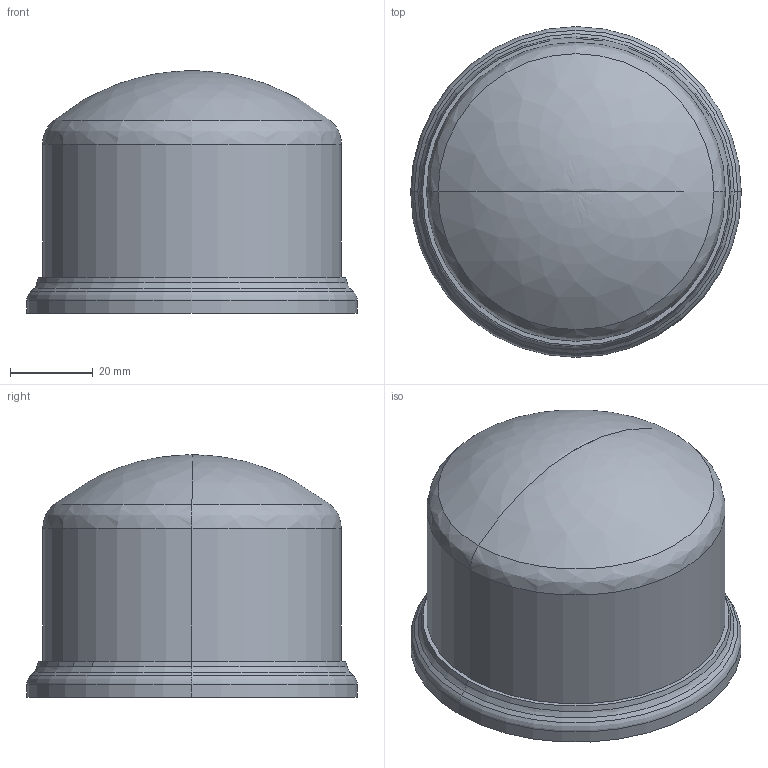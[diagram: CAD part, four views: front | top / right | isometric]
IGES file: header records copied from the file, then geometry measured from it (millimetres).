
Global section: file name: C:\CoreTechnologie\3D-In/022YK02Y05.igs; native system: CT CoreTechnologie 3D Evolution; preprocessor: 2006; date: 1200829.104913; units: millimetre
Bounding box: 79.7 x 79.7 x 58.4 mm (x, y, z)
Volume: 18738.8 mm3; surface area: 29864.6 mm2
Topology: 1 solids, 1 shells, 56 faces, 140 edges, 87 vertices
Faces by surface type: revolution 31, plane 19, bspline 6
